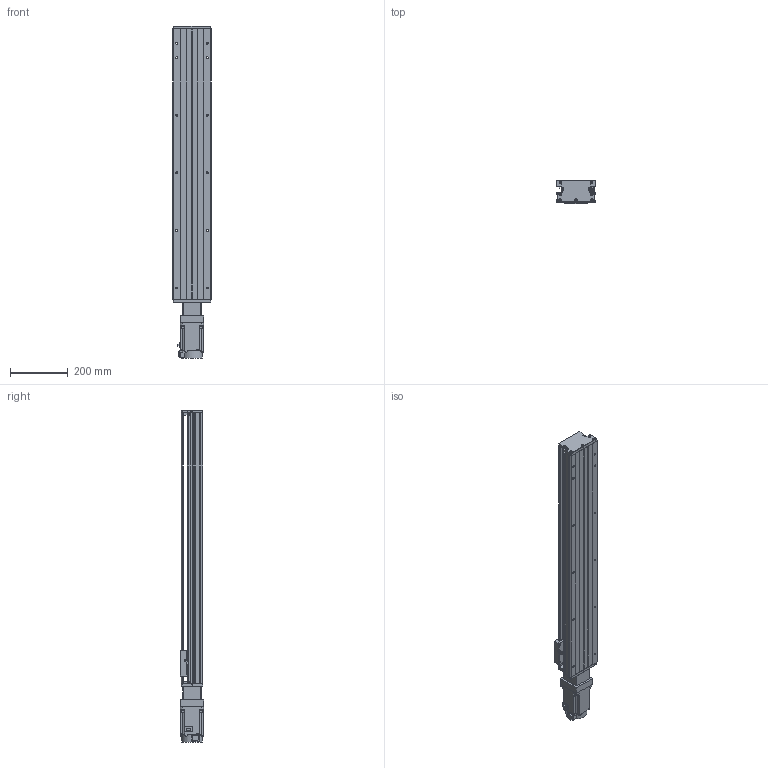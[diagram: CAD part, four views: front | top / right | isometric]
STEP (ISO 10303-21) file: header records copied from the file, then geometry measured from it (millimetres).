
FILE_DESCRIPTION (( 'STEP AP203' ), '1' );
FILE_NAME ('KTH130-800-BC-M75-C4.step', '2023-06-30T04:18:52', ( '微软用户' ), ( '微软中国' ), 'SwSTEP 2.0', 'SolidWorks 2020', '' );
FILE_SCHEMA (( 'CONFIG_CONTROL_DESIGN' ));
Length unit declared in the file: millimetre
Products named in the file (19): GB1155-6X6; GBT77-2000 M3×3; KTH130-800-BC-M75-C4; GBT70.1 M5℅16; す晦芛蹟隊 M3℅5; GBT 70.2-M3¡Á5_M3¡Á6; GBT 70.3-M3℅8; GTH14-001_800; CTHA60-017; CTHA86-006-1_M75; KTH130-002_KTH130-002; EE_SX911P_R; CTHA86-013; KTH130-004; CTHA60-016; CTHA86-027-1; KTH130-005; GBT 70.1-M3℅5; hg-kn73j_-s100
Assembly tree (52 placements, depth 2):
  KTH130-800-BC-M75-C4
    GTH14-001_800
    KTH130-002_KTH130-002
    KTH130-004
    KTH130-005
    GB1155-6X6  x2
    GBT70.1 M5℅16  x10
    GBT 70.2-M3¡Á5_M3¡Á6  x4
    CTHA60-017  x3
    EE_SX911P_R  x3
    CTHA60-016  x2
    GBT 70.1-M3℅5  x6
    GBT77-2000 M3×3  x6
    す晦芛蹟隊 M3℅5  x2
    GBT 70.3-M3℅8  x6
    CTHA86-006-1_M75
    CTHA86-013
    CTHA86-027-1
    hg-kn73j_-s100
Bounding box: 135 x 80.44 x 1153.2 mm (x, y, z)
Volume: 6181787 mm3; surface area: 904960.3 mm2
Topology: 55 solids, 55 shells, 2270 faces, 5456 edges, 3399 vertices
Faces by surface type: plane 1244, cylinder 630, cone 280, torus 104, sphere 12
Entity records: 40462 total; most frequent: CARTESIAN_POINT 6681, DIRECTION 6671, ORIENTED_EDGE 6196, EDGE_CURVE 3098, AXIS2_PLACEMENT_3D 2325, LINE 2021, VECTOR 2021, VERTEX_POINT 1971
